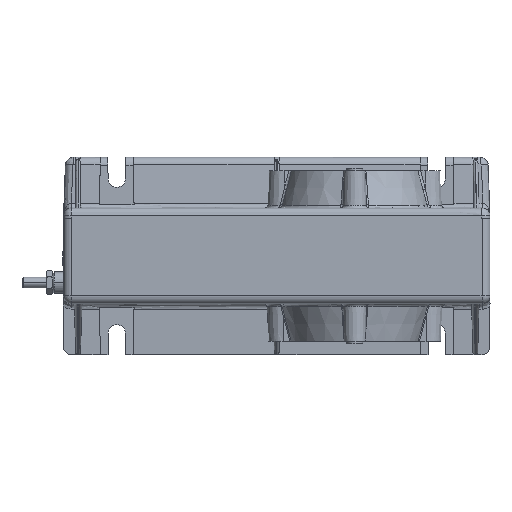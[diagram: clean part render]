
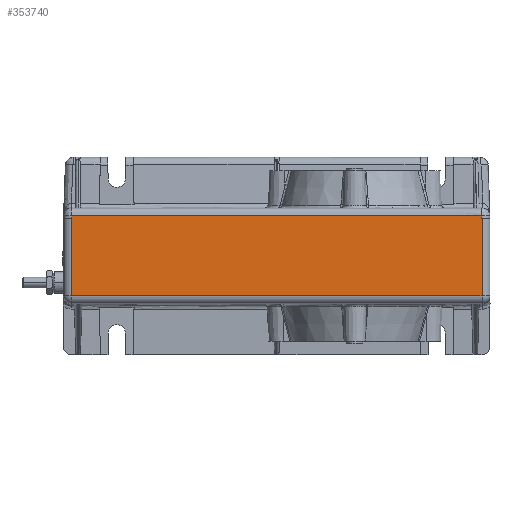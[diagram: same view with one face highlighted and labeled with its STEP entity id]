
A CAD part, front view. The second image highlights one B-rep face of the part: STEP entity #353740.
In plain terms, the highlighted planar face has unit normal (0, -1, 0).
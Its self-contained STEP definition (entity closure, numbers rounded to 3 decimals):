
#91130=CARTESIAN_POINT('',(157.,0.5,32.));
#91140=VERTEX_POINT('',#91130);
#91360=CARTESIAN_POINT('',(3.,0.5,
32.));
#91370=VERTEX_POINT('',#91360);
#129630=CARTESIAN_POINT('',(3.04,0.5,
33.09));
#129640=VERTEX_POINT('',#129630);
#132950=CARTESIAN_POINT('',(156.96,0.5,
33.09));
#132960=VERTEX_POINT('',#132950);
#132990=CARTESIAN_POINT('',(234.065,0.5,
33.09));
#133000=CARTESIAN_POINT('',(205.163,0.5,
33.09));
#133010=CARTESIAN_POINT('',(175.62,0.5,
33.09));
#133020=CARTESIAN_POINT('',(145.438,0.5,
33.09));
#133030=CARTESIAN_POINT('',(143.517,0.5,
33.09));
#133040=CARTESIAN_POINT('',(142.236,0.5,
33.09));
#133050=CARTESIAN_POINT('',(132.474,0.5,
33.09));
#133060=CARTESIAN_POINT('',(123.032,0.5,
33.09));
#133070=CARTESIAN_POINT('',(113.272,0.5,
33.09));
#133080=CARTESIAN_POINT('',(102.869,0.5,
33.09));
#133090=CARTESIAN_POINT('',(92.467,0.5,
33.09));
#133100=CARTESIAN_POINT('',(82.065,0.5,
33.09));
#133110=CARTESIAN_POINT('',(81.105,0.5,
33.09));
#133120=CARTESIAN_POINT('',(80.465,0.5,
33.09));
#133130=CARTESIAN_POINT('',(80.138,0.5,
33.09));
#133140=CARTESIAN_POINT('',(80.132,0.5,
33.09));
#133150=CARTESIAN_POINT('',(79.892,0.5,
33.09));
#133160=CARTESIAN_POINT('',(79.658,0.5,
33.09));
#133170=CARTESIAN_POINT('',(79.242,0.5,
33.09));
#133180=CARTESIAN_POINT('',(78.738,0.5,
33.09));
#133190=CARTESIAN_POINT('',(77.915,0.5,
33.09));
#133200=CARTESIAN_POINT('',(67.525,0.5,
33.09));
#133210=CARTESIAN_POINT('',(55.383,0.5,
33.09));
#133220=CARTESIAN_POINT('',(43.561,0.5,
33.09));
#133230=CARTESIAN_POINT('',(33.811,0.5,
33.09));
#133240=CARTESIAN_POINT('',(25.475,0.5,
33.09));
#133250=CARTESIAN_POINT('',(16.498,0.5,
33.09));
#133260=CARTESIAN_POINT('',(14.559,0.5,
33.09));
#133270=CARTESIAN_POINT('',(10.216,0.5,
33.09));
#133280=CARTESIAN_POINT('',(6.513,0.5,
33.09));
#133290=CARTESIAN_POINT('',(3.313,0.5,
33.09));
#133300=CARTESIAN_POINT('',(3.177,0.5,
33.09));
#133310=CARTESIAN_POINT('',(3.04,0.5,
33.09));
#133320=(BOUNDED_CURVE() B_SPLINE_CURVE(3,(#132990,#133000,#133010,
#133020,#133030,#133040,#133050,#133060,#133070,#133080,#133090,#133100,
#133110,#133120,#133130,#133140,#133150,#133160,#133170,#133180,#133190,
#133200,#133210,#133220,#133230,#133240,#133250,#133260,#133270,#133280,
#133290,#133300,#133310),.UNSPECIFIED.,.F.,.F.) 
B_SPLINE_CURVE_WITH_KNOTS((4,1,1,1,1,1,1,1,1,1,1,1,2,2,2,1,1,1,1,2,1,1,1
,1,2,4),(-154.065,-67.358,-65.438,
-63.517,-61.597,-61.593,-34.232,
-33.272,-32.311,-3.026,-2.065,
-1.105,-0.145,-0.125,0.575
,1.125,2.085,3.045,32.294,
38.512,61.543,63.521,65.441,
67.361,76.55,76.96),.UNSPECIFIED.) CURVE(
) GEOMETRIC_REPRESENTATION_ITEM() RATIONAL_B_SPLINE_CURVE((
1.,1.,1.,1.,
1.,1.,1.,1.,
1.,1.,1.,1.,
1.,1.,1.,1.,
1.,1.,1.,1.,
1.,1.,1.,1.,
1.,1.,1.,1.,
1.,1.,1.,1.,
1.)) REPRESENTATION_ITEM(''));
#133330=EDGE_CURVE('',#132960,#129640,#133320,.T.);
#252330=CARTESIAN_POINT('',(3.,0.5,
3.));
#252340=VERTEX_POINT('',#252330);
#252370=CARTESIAN_POINT('',(0.,0.5,
3.));
#252380=DIRECTION('',(1.,0.,0.));
#252390=VECTOR('',#252380,1.);
#252400=LINE('',#252370,#252390);
#252410=CARTESIAN_POINT('',(157.,0.5,3.));
#252420=VERTEX_POINT('',#252410);
#252430=EDGE_CURVE('',#252340,#252420,#252400,.T.);
#314720=CARTESIAN_POINT('',(0.,0.5,32.));
#314730=DIRECTION('',(-1.,0.,0.));
#314740=VECTOR('',#314730,1.);
#314750=LINE('',#314720,#314740);
#314760=CARTESIAN_POINT('',(156.998,0.5,
32.));
#314770=VERTEX_POINT('',#314760);
#314780=EDGE_CURVE('',#91140,#314770,#314750,.T.);
#314800=CARTESIAN_POINT('',(157.047,0.5,
30.59));
#314810=DIRECTION('',(-0.035,0.,0.999));
#314820=VECTOR('',#314810,1.);
#314830=LINE('',#314800,#314820);
#314840=EDGE_CURVE('',#314770,#132960,#314830,.T.);
#353410=CARTESIAN_POINT('',(12.5,0.5,0.))
;
#353420=DIRECTION('',(0.,-1.,0.));
#353430=DIRECTION('',(0.,0.,1.));
#353440=AXIS2_PLACEMENT_3D('',#353410,#353420,#353430);
#353450=PLANE('',#353440);
#353460=ORIENTED_EDGE('',*,*,#252430,.T.);
#353470=CARTESIAN_POINT('',(3.,0.5,
0.));
#353480=DIRECTION('',(0.,0.,1.));
#353490=VECTOR('',#353480,1.);
#353500=LINE('',#353470,#353490);
#353510=EDGE_CURVE('',#252340,#91370,#353500,.T.);
#353520=ORIENTED_EDGE('',*,*,#353510,.F.);
#353530=CARTESIAN_POINT('',(3.002,0.5,
32.));
#353540=VERTEX_POINT('',#353530);
#353550=EDGE_CURVE('',#353540,#91370,#314750,.T.);
#353560=ORIENTED_EDGE('',*,*,#353550,.T.);
#353570=CARTESIAN_POINT('',(2.953,0.5,
30.59));
#353580=DIRECTION('',(-0.035,0.,-0.999));
#353590=VECTOR('',#353580,1.);
#353600=LINE('',#353570,#353590);
#353610=EDGE_CURVE('',#129640,#353540,#353600,.T.);
#353620=ORIENTED_EDGE('',*,*,#353610,.T.);
#353630=ORIENTED_EDGE('',*,*,#133330,.T.);
#353640=ORIENTED_EDGE('',*,*,#314840,.T.);
#353650=ORIENTED_EDGE('',*,*,#314780,.T.);
#353660=CARTESIAN_POINT('',(157.,0.5,0.)
);
#353670=DIRECTION('',(0.,0.,1.));
#353680=VECTOR('',#353670,1.);
#353690=LINE('',#353660,#353680);
#353700=EDGE_CURVE('',#252420,#91140,#353690,.T.);
#353710=ORIENTED_EDGE('',*,*,#353700,.T.);
#353720=EDGE_LOOP('',(#353710,#353650,#353640,#353630,#353620,#353560,
#353520,#353460));
#353730=FACE_OUTER_BOUND('',#353720,.T.);
#353740=ADVANCED_FACE('',(#353730),#353450,.T.);
